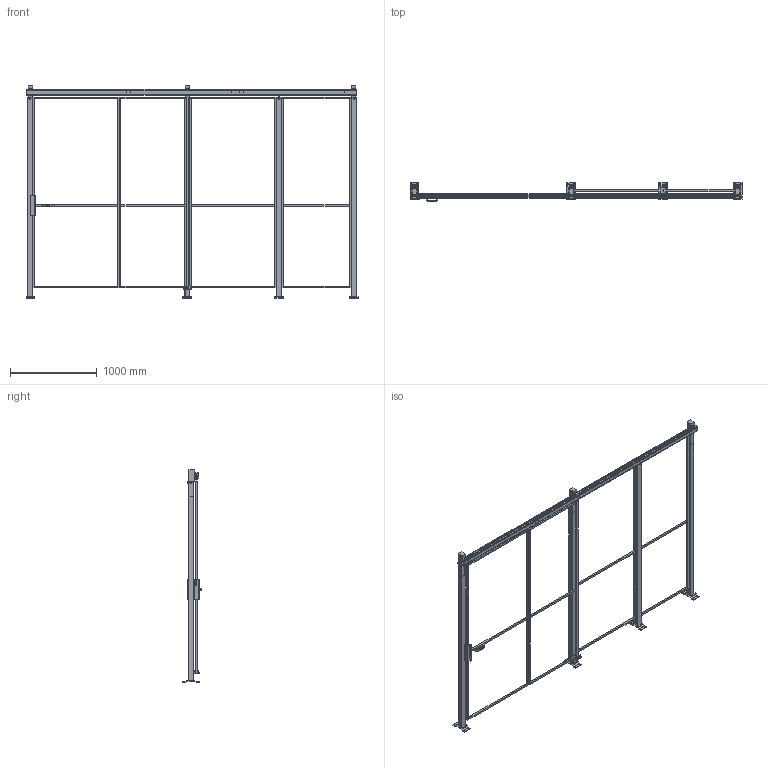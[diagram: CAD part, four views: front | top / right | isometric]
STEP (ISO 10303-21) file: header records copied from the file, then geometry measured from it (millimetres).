
FILE_DESCRIPTION(/* description */ (''),/* implementation_level */ '2;1');
FILE_NAME(/* name */ 'C:\SafeGuarding\ELABORATI\VZOR§POSUVNE_1950x2320_2025-02-13-12-08-45.stp',/* time_stamp */ '2025-02-13T12:08:50+01:00',/* author */ ('admin'),/* organization */ (''),/* preprocessor_version */ 'ST-DEVELOPER v18.1',/* originating_system */ 'AutoCAD Mechanical',/* authorisation */ '');
FILE_SCHEMA (('AUTOMOTIVE_DESIGN { 1 0 10303 214 3 1 1 }','INTEGRATED_CNC_SCHEMA'));
Length unit declared in the file: millimetre
Products named in the file (5): Product; R_VFPA.REPE20.08002200; R_VFPA.REPE20.10002200; DATI_PORTA; P_VFMA.ME60SDU.2320
Assembly tree (9 placements, depth 2):
  Product
    P_VFMA.ME60SDU.2320  x4
    R_VFPA.REPE20.08002200  x2
    R_VFPA.REPE20.10002200  x2
    DATI_PORTA
Bounding box: 3830 x 219.95 x 2454 mm (x, y, z)
Volume: 54345299 mm3; surface area: 7332852.5 mm2
Topology: 50 solids, 61 shells, 667 faces, 2182 edges, 2180 vertices
Faces by surface type: plane 619, cylinder 46, sphere 2
Full cylindrical faces by diameter (mm): 11 x16, 12 x2, 15 x4, 40 x4
Entity records: 15558 total; most frequent: CARTESIAN_POINT 3300, DIRECTION 2350, ORIENTED_EDGE 2262, LINE 1182, VECTOR 1182, EDGE_CURVE 1180, VERTEX_POINT 828, AXIS2_PLACEMENT_3D 584
